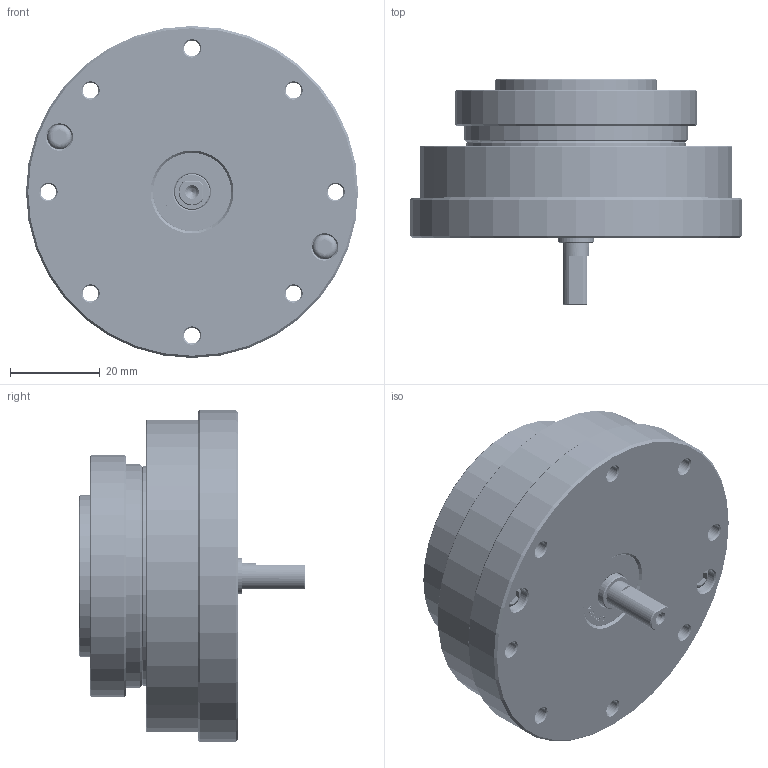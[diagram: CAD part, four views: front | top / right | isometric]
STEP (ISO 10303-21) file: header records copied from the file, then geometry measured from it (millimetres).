
FILE_DESCRIPTION(/* description */ (''),/* implementation_level */ '2;1');
FILE_NAME(/* name */ 'XBJ14成品图.prt.stp',/* time_stamp */ '2022-07-21T18:16:34+08:00',/* author */ (''),/* organization */ (''),/* preprocessor_version */ 'ST-DEVELOPER v16',/* originating_system */ 'SIEMENS PLM Software NX 10.0',/* authorisation */ '');
FILE_SCHEMA (('CONFIG_CONTROL_DESIGN'));
Products named in the file (20): 14柔性轴承保持架（日标）; 平键销3X8; YM3X8; M3X12; 内卡簧φ19X1.0; XBS14-3-1凸轮; G8184; 深沟球轴承695-ZZ; XBJ14-6上盖板; XBK14-1钢轮; 深沟球轴承698-ZZ; XBJ14-7下盖板; G49585; M2X6; XBK14-4-1-1销子; XBK14-4-1内芯; XBK14-4-2外圈; 14柔性轴承（日标）_MODEL; XBJ14-5输入轴_MODEL; XBJ14成品图
Assembly tree (23 placements, depth 3):
  XBJ14成品图
    XBK14-4-2外圈
    XBK14-4-1内芯
    XBK14-4-1-1销子
    M2X6
    G49585
    XBJ14-7下盖板
    深沟球轴承698-ZZ
    XBK14-1钢轮
    XBJ14-6上盖板
    深沟球轴承695-ZZ
    G8184
    XBJ14-5输入轴_MODEL
      平键销3X8
    XBS14-3-1凸轮
    内卡簧φ19X1.0
    14柔性轴承（日标）_MODEL
      14柔性轴承保持架（日标）
    M3X12  x4
    YM3X8  x2
Bounding box: 74 x 50.5 x 74 mm (x, y, z)
Volume: 82515.5 mm3; surface area: 73163 mm2
Topology: 69 solids, 70 shells, 1190 faces, 2950 edges, 1906 vertices
Faces by surface type: plane 454, cylinder 295, cone 220, bspline 87, extrusion 72, sphere 43, torus 19
Full cylindrical faces by diameter (mm): 1.2 x2, 2 x2, 2.3 x1, 2.5 x24, 3.5 x52, 4 x2, 5 x6, 5.5 x2, 5.6 x2, 5.68 x4, 6 x1, 7.4 x2, 8 x4, 10 x1, 10.4 x2, 11 x1, 11.4 x2, 11.5 x1, 12.5 x1, 13 x2, 16 x2, 17.4 x2, 17.5 x1, 18 x1, 19 x3, 20 x1, 23 x1, 24 x1, 25.07 x1, 26 x1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
Entity records: 125524 total; most frequent: CARTESIAN_POINT 101352, DIRECTION 4130, ORIENTED_EDGE 4076, EDGE_CURVE 2038, AXIS2_PLACEMENT_3D 1727, EDGE_LOOP 1618, VERTEX_POINT 1561, FACE_BOUND 1098
